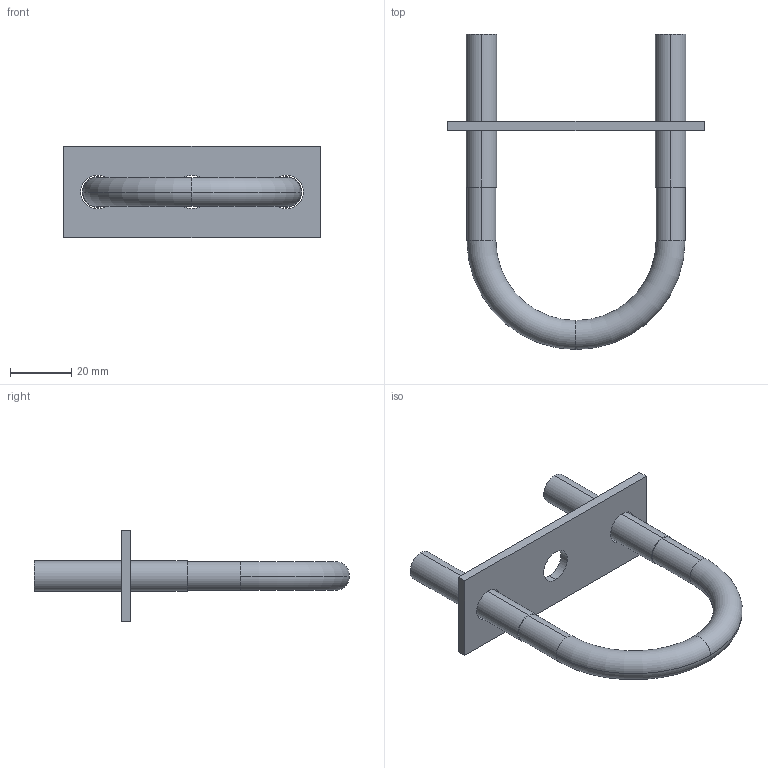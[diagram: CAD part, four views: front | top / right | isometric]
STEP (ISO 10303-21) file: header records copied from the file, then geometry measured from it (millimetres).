
FILE_DESCRIPTION((''),'2;1');
FILE_NAME('2014512200_ASM','2017-05-12T',('Administrator'),(''),'PRO/ENGINEER BY PARAMETRIC TECHNOLOGY CORPORATION, 2009360','PRO/ENGINEER BY PARAMETRIC TECHNOLOGY CORPORATION, 2009360','');
FILE_SCHEMA(('AUTOMOTIVE_DESIGN_CC2 { 1 2 10303 214 -1 1 5 2 }'));
Length unit declared in the file: millimetre
Products named in the file (3): MANIFOLD_SOLID_BREP_119; MANIFOLD_SOLID_BREP_120; 2014512200_ASM
Assembly tree (2 placements, depth 2):
  2014512200_ASM
    MANIFOLD_SOLID_BREP_119
    MANIFOLD_SOLID_BREP_120
Bounding box: 84 x 103.25 x 30 mm (x, y, z)
Volume: 23942.7 mm3; surface area: 12730 mm2
Topology: 2 solids, 2 shells, 28 faces, 64 edges, 42 vertices
Faces by surface type: cylinder 14, plane 10, torus 4
Entity records: 1099 total; most frequent: DIRECTION 168, CARTESIAN_POINT 139, ORIENTED_EDGE 128, AXIS2_PLACEMENT_3D 71, PRESENTATION_STYLE_ASSIGNMENT 66, STYLED_ITEM 66, CURVE_STYLE 64, EDGE_CURVE 64
